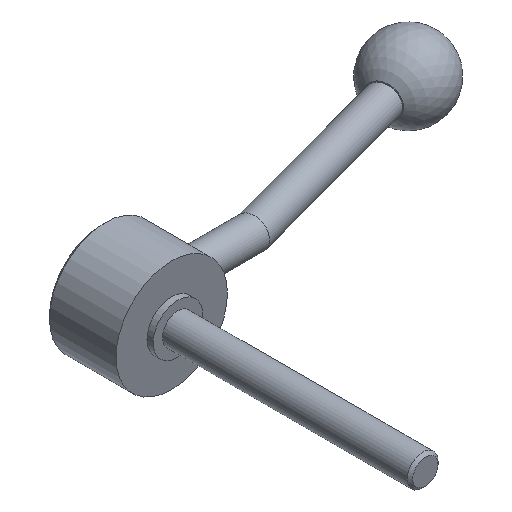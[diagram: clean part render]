
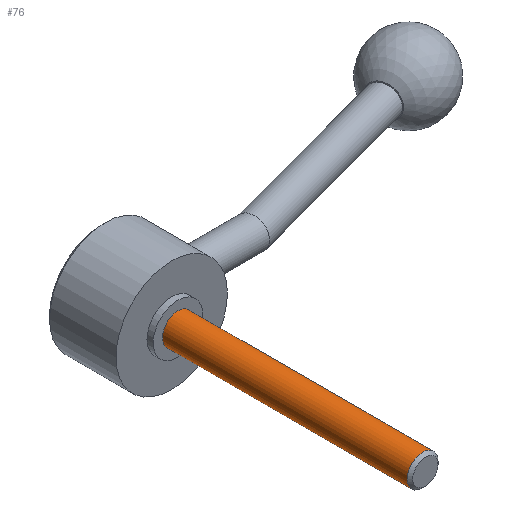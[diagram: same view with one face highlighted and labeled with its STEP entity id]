
A CAD part, isometric view. The second image highlights one B-rep face of the part: STEP entity #76.
In plain terms, the highlighted cylindrical face has radius 5 mm (diameter 10 mm), a full revolution.
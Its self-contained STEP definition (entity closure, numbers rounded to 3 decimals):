
#76 = ADVANCED_FACE( '', ( #94, #95 ), #96, .T. );
#94 = FACE_OUTER_BOUND( '', #138, .T. );
#95 = FACE_OUTER_BOUND( '', #139, .T. );
#96 = CYLINDRICAL_SURFACE( '', #140, 5. );
#138 = EDGE_LOOP( '', ( #184 ) );
#139 = EDGE_LOOP( '', ( #185 ) );
#140 = AXIS2_PLACEMENT_3D( '', #186, #187, #188 );
#184 = ORIENTED_EDGE( '', *, *, #254, .F. );
#185 = ORIENTED_EDGE( '', *, *, #255, .T. );
#186 = CARTESIAN_POINT( '', ( 0., -80., 0. ) );
#187 = DIRECTION( '', ( 0., 1., 0. ) );
#188 = DIRECTION( '', ( 0., 0., -1. ) );
#254 = EDGE_CURVE( '', #270, #270, #271, .T. );
#255 = EDGE_CURVE( '', #272, #272, #273, .T. );
#270 = VERTEX_POINT( '', #298 );
#271 = CIRCLE( '', #299, 5. );
#272 = VERTEX_POINT( '', #300 );
#273 = CIRCLE( '', #301, 5. );
#298 = CARTESIAN_POINT( '', ( 0., -79.08, -5. ) );
#299 = AXIS2_PLACEMENT_3D( '', #400, #401, #402 );
#300 = CARTESIAN_POINT( '', ( 0., 0., -5. ) );
#301 = AXIS2_PLACEMENT_3D( '', #403, #404, #405 );
#400 = CARTESIAN_POINT( '', ( 0., -79.08, 0. ) );
#401 = DIRECTION( '', ( 0., -1., 0. ) );
#402 = DIRECTION( '', ( 0., 0., -1. ) );
#403 = CARTESIAN_POINT( '', ( 0., 0., 0. ) );
#404 = DIRECTION( '', ( 0., -1., 0. ) );
#405 = DIRECTION( '', ( 0., 0., -1. ) );
